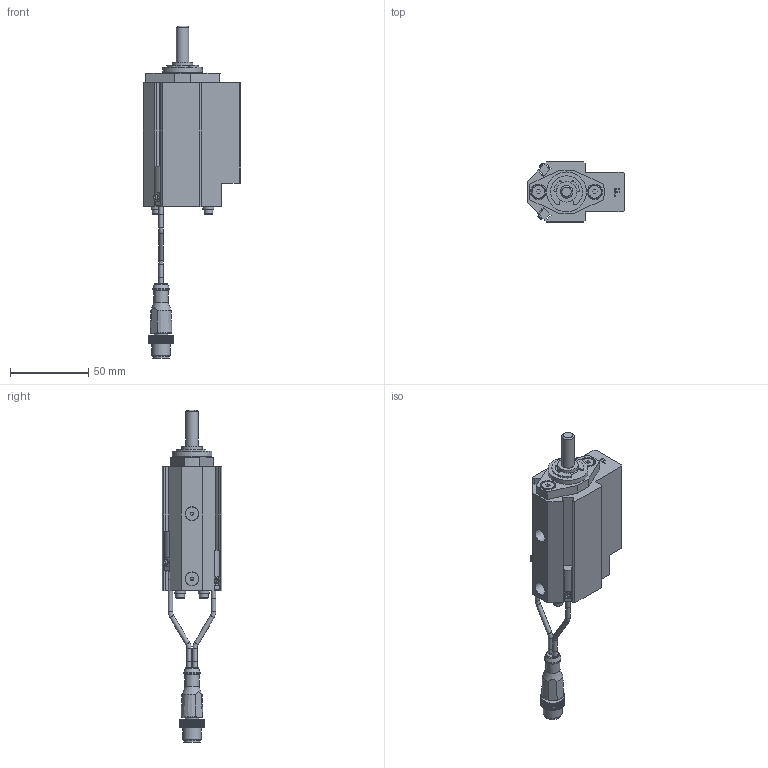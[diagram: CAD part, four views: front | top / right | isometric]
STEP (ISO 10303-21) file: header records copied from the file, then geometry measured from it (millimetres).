
FILE_DESCRIPTION(/* description */ ('NAAMS FLOATING MICRO PIN'),/* implementation_level */ '2;1');
FILE_NAME(/* name */ 'C:\Vault Workspace\CAD\Welker\Shot Pin\NMP\NMP080022EFNL3.stp',/* time_stamp */ '2021-01-28T11:53:09-05:00',/* author */ ('WELKER'),/* organization */ (''),/* preprocessor_version */ 'ST-DEVELOPER v18.1',/* originating_system */ 'Autodesk Inventor 2020',/* authorisation */ '');
FILE_SCHEMA (('AUTOMOTIVE_DESIGN { 1 0 10303 214 3 1 1 }'));
Length unit declared in the file: millimetre
Products named in the file (16): NMPL01; NMP L3 SWITCH; L3 Connector; L3 Sensor 1; L3 Sensor 2; L3 Sensor cable; L3 Sensor cable 2; M3X0.5-8 SHCS; NL3; NMPE06; NMPE03; NMPE04-DIA-LENGTH; 985432A218; NMPE01F-PORT; RMPE02; M5X5 SHOULDER
Assembly tree (22 placements, depth 3):
  NMPL01
    NMP L3 SWITCH
      L3 Connector
      L3 Sensor 1
      L3 Sensor 2
      L3 Sensor cable
      L3 Sensor cable 2
    M3X0.5-8 SHCS  x4
    NL3  x4
    NMPE06
    NMPE03
    NMPE04-DIA-LENGTH
    985432A218
    NMPE01F-PORT
    RMPE02
    M5X5 SHOULDER  x2
Bounding box: 62 x 38.1 x 211.52 mm (x, y, z)
Volume: 112589.4 mm3; surface area: 44900.8 mm2
Topology: 21 solids, 21 shells, 746 faces, 2019 edges, 1349 vertices
Faces by surface type: plane 552, cylinder 144, cone 35, torus 11, bspline 2, sphere 2
Full cylindrical faces by diameter (mm): 2 x2, 2.459 x4, 2.9 x10, 3 x5, 3.242 x2, 3.4 x4, 4 x2, 5 x6, 5.5 x4, 7 x4, 8 x3, 8.3 x2, 8.376 x2, 9 x3, 10 x3, 10.4 x1, 10.5 x1, 12 x1, 13 x3, 16 x2, 19.05 x3, 21 x1, 22.5 x1, 23.672 x1, 24 x1, 25.4 x1, 25.5 x1, 26.5 x1, 28.677 x1, 29.21 x1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
Entity records: 22754 total; most frequent: CARTESIAN_POINT 4161, ORIENTED_EDGE 3732, DIRECTION 3719, EDGE_CURVE 1866, LINE 1381, VECTOR 1381, VERTEX_POINT 1254, AXIS2_PLACEMENT_3D 1169
